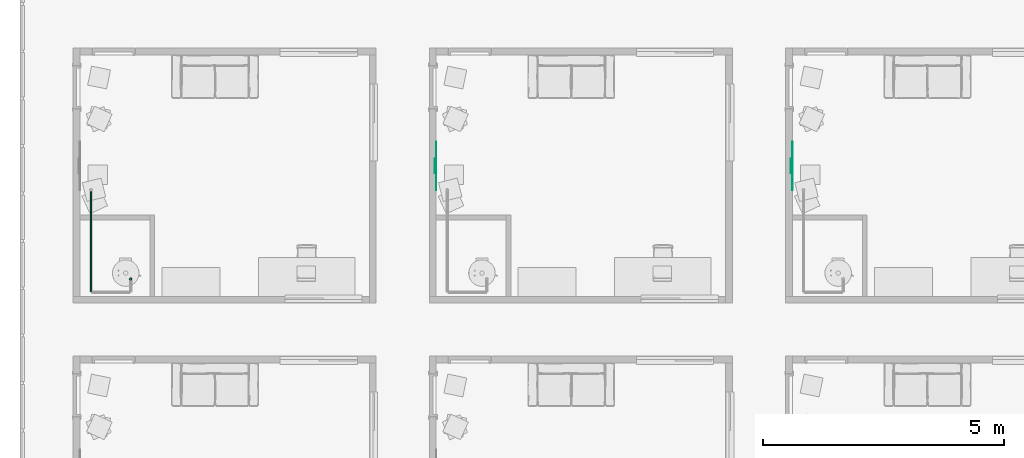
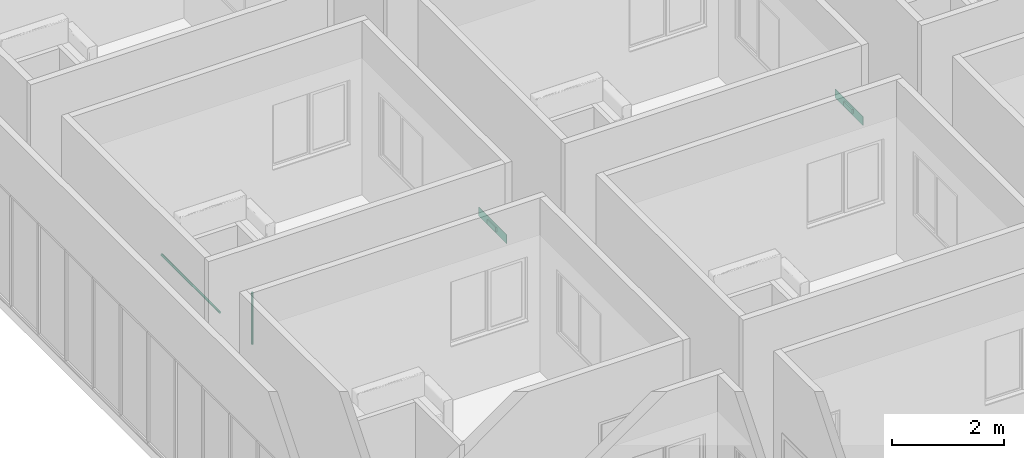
# One storey, part 25 of 71: 2 air terminals, 2 pipe segments.
"""IFC4 building model written with IfcOpenShell, lengths in centimetres."""

from ifc_helpers import new_model, entity, si_unit, converted_unit, derived_unit, direction, frame, origin, place, context, subcontext, project, spatial, arc, indexed_curve, outline, extrude, source, transform, mapped, material, constituent, constituent_set, type_object, type_shapes, element, save


model = new_model("IFC4")

# Units and contexts
model_context = context("Model", 3, precision=0.001, world=origin(), true_north=direction((6.123233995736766e-17, 1.0)))
body_context = subcontext(model_context, "Body", "Model", "MODEL_VIEW")
ifc_project = project(units=[si_unit("LENGTHUNIT", "METRE", prefix="CENTI"), si_unit("AREAUNIT", "SQUARE_METRE"), si_unit("VOLUMEUNIT", "CUBIC_METRE"), derived_unit("THERMALTRANSMITTANCEUNIT", [(si_unit("MASSUNIT", "GRAM", prefix="KILO"), 1), (si_unit("THERMODYNAMICTEMPERATUREUNIT", "KELVIN"), -1), (si_unit("TIMEUNIT", "SECOND"), -3)]), converted_unit("PLANEANGLEUNIT", "DEGREE", entity("IfcPlaneAngleMeasure", 0.017453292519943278), si_unit("PLANEANGLEUNIT", "RADIAN"), dimensions=[0, 0, 0, 0, 0, 0, 0]), derived_unit("MASSDENSITYUNIT", [(si_unit("MASSUNIT", "GRAM", prefix="KILO"), 1), (si_unit("LENGTHUNIT", "METRE"), -3)]), derived_unit("VAPORPERMEABILITYUNIT", [(si_unit("LENGTHUNIT", "METRE"), -1), (si_unit("TIMEUNIT", "SECOND"), 1)]), derived_unit("USERDEFINED", [(si_unit("MASSUNIT", "GRAM", prefix="KILO"), 1), (si_unit("TIMEUNIT", "SECOND"), -3), (si_unit("LENGTHUNIT", "METRE"), 3), (si_unit("ELECTRICCURRENTUNIT", "AMPERE"), -2)]), derived_unit("SPECIFICHEATCAPACITYUNIT", [(si_unit("THERMODYNAMICTEMPERATUREUNIT", "KELVIN"), -1), (si_unit("LENGTHUNIT", "METRE"), 2), (si_unit("TIMEUNIT", "SECOND"), -2)]), derived_unit("THERMALCONDUCTANCEUNIT", [(si_unit("MASSUNIT", "GRAM", prefix="KILO"), 1), (si_unit("THERMODYNAMICTEMPERATUREUNIT", "KELVIN"), -1), (si_unit("TIMEUNIT", "SECOND"), -3), (si_unit("LENGTHUNIT", "METRE"), 1)]), si_unit("PRESSUREUNIT", "PASCAL"), derived_unit("MODULUSOFELASTICITYUNIT", [(si_unit("MASSUNIT", "GRAM", prefix="KILO"), 1), (si_unit("LENGTHUNIT", "METRE"), -1), (si_unit("TIMEUNIT", "SECOND"), -2)]), derived_unit("THERMALEXPANSIONCOEFFICIENTUNIT", [(si_unit("THERMODYNAMICTEMPERATUREUNIT", "KELVIN"), -1)])], contexts=[model_context])

# Site, building, storey, space
site_placement = place(None, origin())
site = spatial("IfcSite", under=ifc_project, at=site_placement, Name="Default", CompositionType="ELEMENT")
building_placement = place(site_placement, origin())
building = spatial("IfcBuilding", under=site, at=building_placement, Name="IDS Escape Game Building", CompositionType="ELEMENT")
storey_placement = place(building_placement, frame((0.0, 0.0, 400.0)))
storey = spatial("IfcBuildingStorey", under=building, at=storey_placement, Name="01_First Floor", CompositionType="ELEMENT", Elevation=399.99999999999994)
space_1_placement = place(storey_placement, origin())
space_1 = spatial("IfcSpace", under=storey, at=space_1_placement, Name="58", CompositionType="ELEMENT", PredefinedType="NOTDEFINED")

# Air terminal
ifc_material_1 = material(Name="TB_LVC_referentievlak_00_gen_BERSnl", Category="BE Default")
ifc_constituent_1 = constituent(ifc_material_1, Name="TB_LVC_referentievlak_00_gen_BERSnl", Category="BE Default", fraction=0.00014157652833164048)
ifc_material_2 = material(Name="ARC_FME.h2_staal_00_gen_BERSnl", Category="h - metaal")
ifc_constituent_2 = constituent(ifc_material_2, Name="ARC_FME.h2_staal_00_gen_BERSnl", Category="h - metaal", fraction=0.9998584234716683)
ifc_constituent_set_1 = constituent_set(constituents=[ifc_constituent_1, ifc_constituent_2])
ifc_constituent_3 = constituent(ifc_material_1, Name="BE Referentievlak", Category="BE Default", fraction=0.00014157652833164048)
ifc_constituent_4 = constituent(ifc_material_2, Name="Terminals", Category="h - metaal", fraction=0.9998584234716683)
ifc_constituent_set_2 = constituent_set(constituents=[ifc_constituent_3, ifc_constituent_4])
air_terminal_type = type_object("IfcAirTerminalType", Name="TB_57_AIR_FB_aanzuigrooster - 1 rechthoekige aansluiting - calculated flow_gen_BERSnl:Air Terminal - Exhaust", PredefinedType="GRILLE", material=ifc_constituent_set_2)
shared_shape = source(origin(), body_context, "Body", "SweptSolid", [
    extrude(outline(indexed_curve([(-0.5, -2.0290176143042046e-15), (6.8507733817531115e-16, -0.5000000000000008), (0.5, 2.0290176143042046e-15), (-5.361679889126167e-16, 0.49999999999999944)], segments=[arc(1, 2, 3), arc(3, 4, 1)], self_intersect=False)), frame((0.0, 0.0, 0.0), z_axis=(1.7453292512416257e-05, 0.0, 1.0), x_axis=(0.0, 1.0, 0.0)), (0.0, 0.0, 1.0), 0.09999999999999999),
    extrude(outline(indexed_curve([(-14.900000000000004, -4.9), (14.900000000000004, -4.9), (14.900000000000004, 4.9), (-14.900000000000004, 4.9), (-14.900000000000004, -4.9)], self_intersect=False)), frame((-4.886921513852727e-05, 0.0, -2.7999999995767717)), (0.0, 0.0, 1.0), 2.7999999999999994),
    extrude(outline(indexed_curve([(-50.0, -10.0), (50.0, -10.0), (50.0, 10.0), (-50.0, 10.0), (-50.0, -10.0)], self_intersect=False)), frame((0.0, 0.0, 0.0), z_axis=(0.0, 0.0, 1.0), x_axis=(-1.0, 0.0, 0.0)), (0.0, 0.0, 1.0), 0.6999999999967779),
])
type_shapes(air_terminal_type, [shared_shape])
air_terminal_1_placement = place(space_1_placement, frame((745.0, 2197.0, 24.0), z_axis=(1.0, 0.0, 0.0), x_axis=(0.0, 1.0, 0.0)))
element("IfcAirTerminal", 1, at=air_terminal_1_placement, inside=space_1, type_object=air_terminal_type, material=ifc_constituent_set_1, Name="TB_57_AIR_FB_aanzuigrooster - 1 rechthoekige aansluiting - calculated flow_gen_BERSnl:Air Terminal - Exhaust", ObjectType="TB_57_AIR_FB_aanzuigrooster - 1 rechthoekige aansluiting - calculated flow_gen_BERSnl:Air Terminal - Exhaust", PredefinedType="GRILLE", context=body_context, shape_type="MappedRepresentation", body=[
    mapped(shared_shape, transform((0.0, 0.0, 0.0), scale=1.0)),
])

# Space
space_2_placement = place(storey_placement, origin())
space_2 = spatial("IfcSpace", under=storey, at=space_2_placement, Name="59", CompositionType="ELEMENT", PredefinedType="NOTDEFINED")

# Air terminal
ifc_constituent_5 = constituent(ifc_material_1, Name="TB_LVC_referentievlak_00_gen_BERSnl", Category="BE Default", fraction=0.00014157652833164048)
ifc_constituent_6 = constituent(ifc_material_2, Name="ARC_FME.h2_staal_00_gen_BERSnl", Category="h - metaal", fraction=0.9998584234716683)
ifc_constituent_set_3 = constituent_set(constituents=[ifc_constituent_5, ifc_constituent_6])
air_terminal_2_placement = place(space_2_placement, frame((1483.0, 2197.0, 24.0), z_axis=(1.0, 0.0, 0.0), x_axis=(0.0, 1.0, 0.0)))
element("IfcAirTerminal", 2, at=air_terminal_2_placement, inside=space_2, type_object=air_terminal_type, material=ifc_constituent_set_3, Name="TB_57_AIR_FB_aanzuigrooster - 1 rechthoekige aansluiting - calculated flow_gen_BERSnl:Air Terminal - Exhaust", ObjectType="TB_57_AIR_FB_aanzuigrooster - 1 rechthoekige aansluiting - calculated flow_gen_BERSnl:Air Terminal - Exhaust", PredefinedType="GRILLE", context=body_context, shape_type="MappedRepresentation", body=[
    mapped(shared_shape, transform((0.0, 0.0, 0.0), scale=1.0)),
])

# Pipe segments
pipe_segment_type = type_object("IfcPipeSegmentType", Name="Pipe Types:Piping Aluminum", PredefinedType="NOTDEFINED")
pipe_segment_1_placement = place(storey_placement, origin())
element("IfcPipeSegment", 3, at=pipe_segment_1_placement, inside=storey, type_object=pipe_segment_type, Name="Pipe Types:Piping Aluminum", ObjectType="Pipe Types:Piping Aluminum", PredefinedType="NOTDEFINED", context=body_context, shape_type="SweptSolid", body=[
    extrude(outline(indexed_curve([(2.412999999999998, 0.0), (1.7062486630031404, 1.7062486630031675), (-1.3535839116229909e-14, 2.412999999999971), (-1.7062486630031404, 1.7062486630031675), (-2.412999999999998, 0.0), (-1.706248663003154, -1.7062486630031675), (-1.3535839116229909e-14, -2.412999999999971), (1.7062486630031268, -1.7062486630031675)], segments=[arc(1, 2, 3), arc(3, 4, 5), arc(5, 6, 7), arc(7, 8, 1)], self_intersect=False)), frame((112.15000000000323, 1962.9000000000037, 128.0), z_axis=(0.0, 0.0, 1.0), x_axis=(-1.0, 0.0, 0.0)), (0.0, 0.0, 1.0), 112.90000000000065),
])
pipe_segment_2_placement = place(storey_placement, origin())
element("IfcPipeSegment", 4, at=pipe_segment_2_placement, inside=storey, type_object=pipe_segment_type, Name="Pipe Types:Piping Aluminum", ObjectType="Pipe Types:Piping Aluminum", PredefinedType="NOTDEFINED", context=body_context, shape_type="SweptSolid", body=[
    extrude(outline(indexed_curve([(2.4130000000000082, 0.0), (1.7062486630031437, 1.7062486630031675), (-3.383959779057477e-15, 2.412999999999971), (-1.7062486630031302, 1.7062486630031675), (-2.412999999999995, 0.0), (-1.7062486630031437, -1.7062486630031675), (-6.767919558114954e-15, -2.412999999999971), (1.706248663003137, -1.7062486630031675)], segments=[arc(1, 2, 3), arc(3, 4, 5), arc(5, 6, 7), arc(7, 8, 1)], self_intersect=False)), frame((30.046716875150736, 1936.3648279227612, 242.0), z_axis=(0.0, 1.0, 0.0), x_axis=(1.0, 0.0, 0.0)), (0.0, 0.0, 1.0), 208.80000000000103),
])

save(model, "model.ifc")
